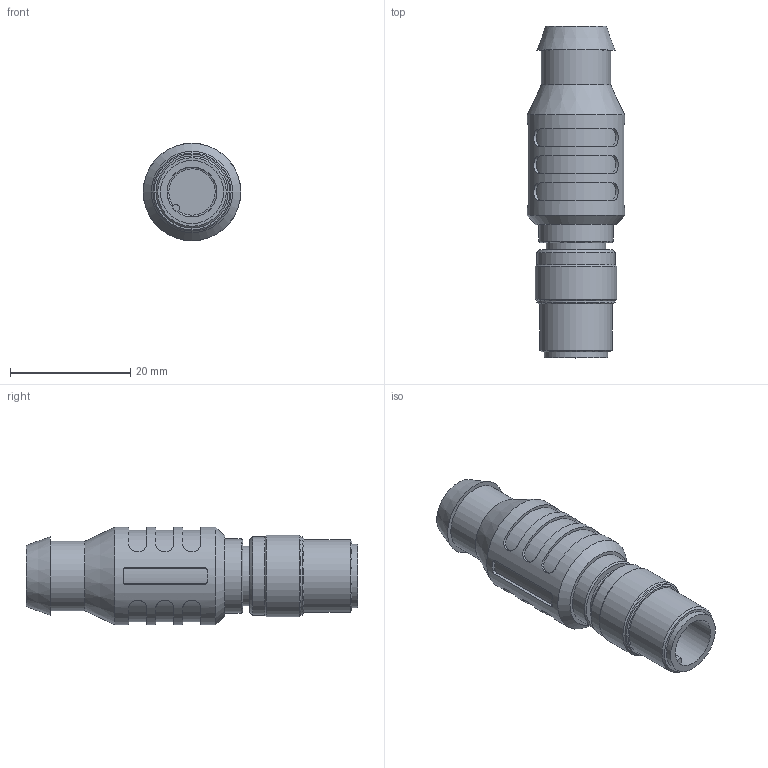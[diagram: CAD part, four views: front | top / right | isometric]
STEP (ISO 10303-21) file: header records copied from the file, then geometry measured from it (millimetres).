
FILE_DESCRIPTION((''),'2;1');
FILE_NAME('C:\TurckZip\MFGD0016.stp','2008-07-09T11:07:43',('IKOROL'),(''),'Autodesk Inventor 2008','Autodesk Inventor 2008','');
FILE_SCHEMA(('CONFIG_CONTROL_DESIGN'));
Length unit declared in the file: millimetre
Products named in the file (1): Part6
Bounding box: 16.21 x 55.2 x 16.21 mm (x, y, z)
Volume: 7507.4 mm3; surface area: 4178.1 mm2
Topology: 1 solids, 1 shells, 83 faces, 217 edges, 149 vertices
Faces by surface type: cylinder 40, plane 33, cone 8, torus 1, bspline 1
Full cylindrical faces by diameter (mm): 8.3 x1, 9.9 x1, 10 x1, 10.5 x1, 11.503 x1, 12 x1, 12.311 x1, 13 x2, 13.5 x1, 16.206 x1
Entity records: 3289 total; most frequent: CARTESIAN_POINT 1399, ORIENTED_EDGE 374, DIRECTION 351, EDGE_CURVE 187, AXIS2_PLACEMENT_3D 148, VERTEX_POINT 142, EDGE_LOOP 119, FACE_OUTER_BOUND 83
